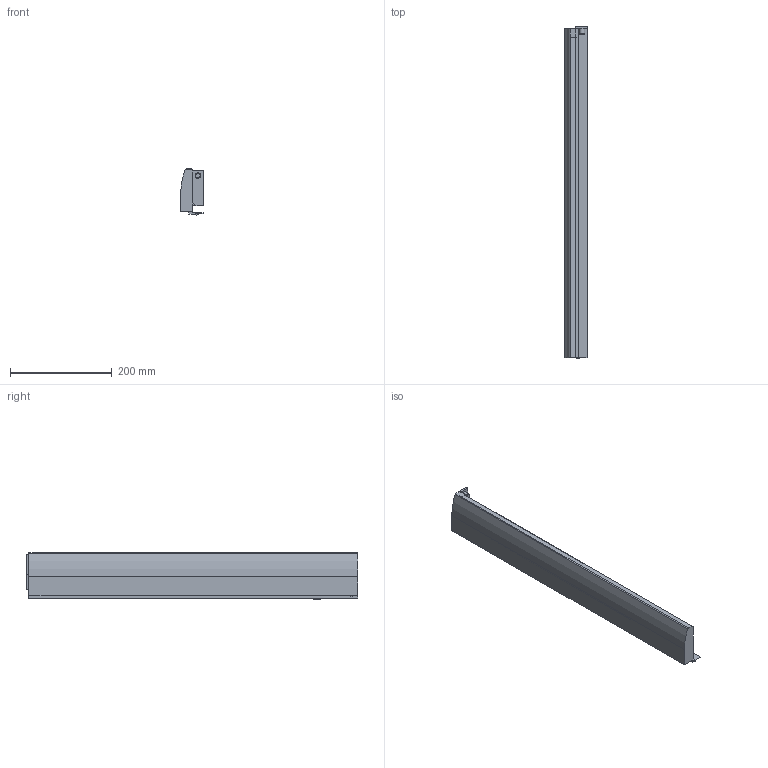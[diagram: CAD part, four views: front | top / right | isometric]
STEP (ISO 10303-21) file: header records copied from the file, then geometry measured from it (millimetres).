
FILE_DESCRIPTION (( 'STEP AP214' ), '1' );
FILE_NAME ('_IMOS_NOVA-Pro_Dekor-H90_DL_NL650_LI.step', '2010-07-06T09:14:53', ( 'grass' ), ( '' ), 'SwSTEP 2.0', 'SolidWorks 2009', '' );
FILE_SCHEMA (( 'AUTOMOTIVE_DESIGN' ));
Length unit declared in the file: millimetre
Products named in the file (1): _IMOS_NOVA-Pro_Dekor-H90_DL_NL650_LI
Bounding box: 44.3 x 652.7 x 90.49 mm (x, y, z)
Volume: 703876.8 mm3; surface area: 222189.1 mm2
Topology: 1 solids, 1 shells, 69 faces, 182 edges, 120 vertices
Faces by surface type: plane 47, cylinder 17, cone 4, bspline 1
Entity records: 2168 total; most frequent: CARTESIAN_POINT 393, ORIENTED_EDGE 364, DIRECTION 357, EDGE_CURVE 182, VECTOR 141, LINE 141, VERTEX_POINT 120, AXIS2_PLACEMENT_3D 108
